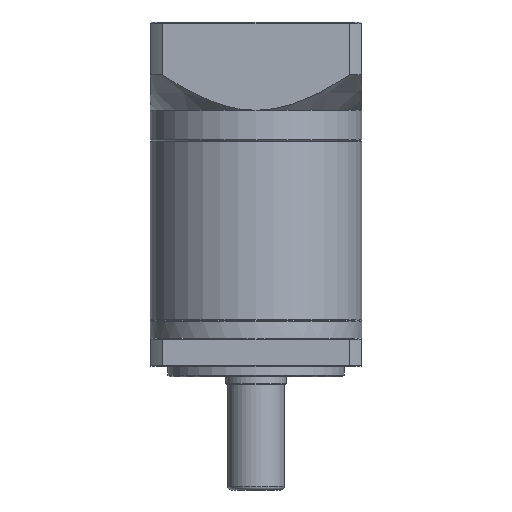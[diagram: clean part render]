
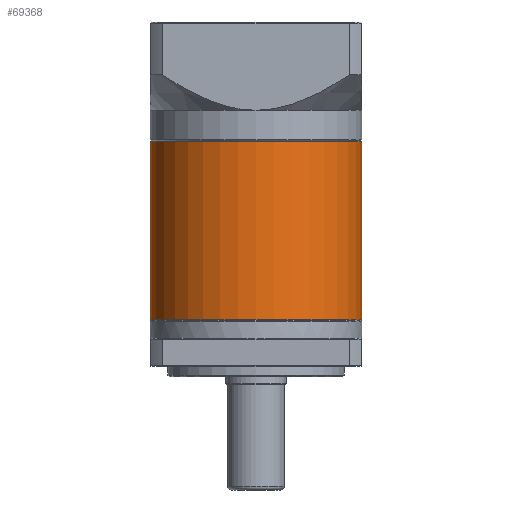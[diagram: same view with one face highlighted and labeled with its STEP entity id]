
A CAD part, front view. The second image highlights one B-rep face of the part: STEP entity #69368.
In plain terms, the highlighted cylindrical face has radius 30 mm (diameter 60 mm), a partial arc.
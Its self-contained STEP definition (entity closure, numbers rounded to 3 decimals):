
#711 = VERTEX_POINT ( 'NONE', #15023 ) ;
#5393 = EDGE_CURVE ( 'NONE', #59181, #92032, #31478, .T. ) ;
#9862 = AXIS2_PLACEMENT_3D ( 'NONE', #29050, #65831, #36789 ) ;
#9986 = ORIENTED_EDGE ( 'NONE', *, *, #5393, .F. ) ;
#10111 = CIRCLE ( 'NONE', #71176, 30. ) ;
#13515 = DIRECTION ( 'NONE',  ( 0., 0., 1. ) ) ;
#15023 = CARTESIAN_POINT ( 'NONE',  ( -98.108, 29.245, 3.189 ) ) ;
#18351 = CARTESIAN_POINT ( 'NONE',  ( -68.108, 29.245, 3.189 ) ) ;
#21549 = DIRECTION ( 'NONE',  ( 0., 0., -1. ) ) ;
#22857 = EDGE_CURVE ( 'NONE', #74193, #92032, #10111, .T. ) ;
#23386 = EDGE_LOOP ( 'NONE', ( #9986, #35128, #44378, #73489 ) ) ;
#24972 = CARTESIAN_POINT ( 'NONE',  ( -38.108, 29.245, 3.189 ) ) ;
#25863 = DIRECTION ( 'NONE',  ( 1., 0., 0. ) ) ;
#27444 = CARTESIAN_POINT ( 'NONE',  ( -38.108, 29.245, 3.439 ) ) ;
#29050 = CARTESIAN_POINT ( 'NONE',  ( -68.108, 29.245, 3.439 ) ) ;
#31478 = LINE ( 'NONE', #27444, #83530 ) ;
#35128 = ORIENTED_EDGE ( 'NONE', *, *, #49970, .T. ) ;
#36789 = DIRECTION ( 'NONE',  ( -1., 0., 0. ) ) ;
#39853 = FACE_OUTER_BOUND ( 'NONE', #23386, .T. ) ;
#44378 = ORIENTED_EDGE ( 'NONE', *, *, #64437, .T. ) ;
#49411 = AXIS2_PLACEMENT_3D ( 'NONE', #18351, #70096, #25863 ) ;
#49970 = EDGE_CURVE ( 'NONE', #59181, #711, #66753, .T. ) ;
#57848 = CARTESIAN_POINT ( 'NONE',  ( -68.108, 29.245, -47.111 ) ) ;
#59181 = VERTEX_POINT ( 'NONE', #24972 ) ;
#59619 = LINE ( 'NONE', #80433, #77052 ) ;
#64437 = EDGE_CURVE ( 'NONE', #711, #74193, #59619, .T. ) ;
#65236 = DIRECTION ( 'NONE',  ( 1., 0., 0. ) ) ;
#65831 = DIRECTION ( 'NONE',  ( 0., 0., -1. ) ) ;
#66263 = CARTESIAN_POINT ( 'NONE',  ( -98.108, 29.245, -47.111 ) ) ;
#66753 = CIRCLE ( 'NONE', #49411, 30. ) ;
#69368 = ADVANCED_FACE ( 'NONE', ( #39853 ), #73360, .T. ) ;
#70096 = DIRECTION ( 'NONE',  ( 0., 0., -1. ) ) ;
#71176 = AXIS2_PLACEMENT_3D ( 'NONE', #57848, #13515, #65236 ) ;
#71737 = DIRECTION ( 'NONE',  ( 0., 0., -1. ) ) ;
#73360 = CYLINDRICAL_SURFACE ( 'NONE', #9862, 30. ) ;
#73489 = ORIENTED_EDGE ( 'NONE', *, *, #22857, .T. ) ;
#74193 = VERTEX_POINT ( 'NONE', #66263 ) ;
#77052 = VECTOR ( 'NONE', #21549, 1000. ) ;
#80433 = CARTESIAN_POINT ( 'NONE',  ( -98.108, 29.245, 3.439 ) ) ;
#83530 = VECTOR ( 'NONE', #71737, 1000. ) ;
#92032 = VERTEX_POINT ( 'NONE', #93548 ) ;
#93548 = CARTESIAN_POINT ( 'NONE',  ( -38.108, 29.245, -47.111 ) ) ;
